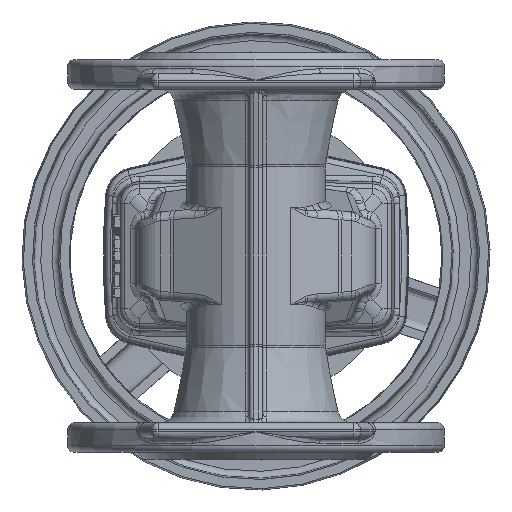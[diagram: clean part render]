
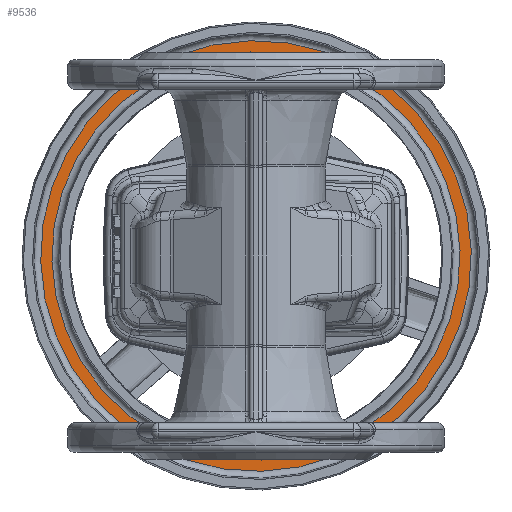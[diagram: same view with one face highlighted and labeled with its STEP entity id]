
A CAD part, front view. The second image highlights one B-rep face of the part: STEP entity #9536.
In plain terms, the highlighted planar face has unit normal (0, -1, 0).
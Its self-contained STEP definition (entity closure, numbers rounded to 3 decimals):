
#1201 = CARTESIAN_POINT ( 'NONE',  ( 0., 317., 0. ) ) ;
#1202 = DIRECTION ( 'NONE',  ( 0., 1., 0. ) ) ;
#1203 = DIRECTION ( 'NONE',  ( 0.199, 0., -0.98 ) ) ;
#3427 = CIRCLE ( 'NONE', #6413, 89.355 ) ;
#3548 = CIRCLE ( 'NONE', #6389, 94.299 ) ;
#6373 = AXIS2_PLACEMENT_3D ( 'NONE', #9276, #9268, #9267 ) ;
#6389 = AXIS2_PLACEMENT_3D ( 'NONE', #15689, #15690, #15691 ) ;
#6413 = AXIS2_PLACEMENT_3D ( 'NONE', #1201, #1202, #1203 ) ;
#9267 = DIRECTION ( 'NONE',  ( 0.199, 0., -0.98 ) ) ;
#9268 = DIRECTION ( 'NONE',  ( 0., 1., 0. ) ) ;
#9276 = CARTESIAN_POINT ( 'NONE',  ( -17.821, 317., 87.56 ) ) ;
#9277 = PLANE ( 'NONE',  #6373 ) ;
#9536 = ADVANCED_FACE ( 'NONE', ( #31243, #31253 ), #9277, .F. ) ;
#10168 = EDGE_CURVE ( 'NONE', #27111, #27111, #3427, .T. ) ;
#10320 = EDGE_CURVE ( 'NONE', #27119, #27119, #3548, .T. ) ;
#15689 = CARTESIAN_POINT ( 'NONE',  ( 0., 317., 0. ) ) ;
#15690 = DIRECTION ( 'NONE',  ( 0., 1., 0. ) ) ;
#15691 = DIRECTION ( 'NONE',  ( 0.199, 0., -0.98 ) ) ;
#22505 = EDGE_LOOP ( 'NONE', ( #32980 ) ) ;
#22519 = EDGE_LOOP ( 'NONE', ( #32981 ) ) ;
#27111 = VERTEX_POINT ( 'NONE', #30521 ) ;
#27119 = VERTEX_POINT ( 'NONE', #30529 ) ;
#30521 = CARTESIAN_POINT ( 'NONE',  ( 17.821, 317., -87.56 ) ) ;
#30529 = CARTESIAN_POINT ( 'NONE',  ( 18.807, 317., -92.404 ) ) ;
#31243 = FACE_OUTER_BOUND ( 'NONE', #22519, .T. ) ;
#31253 = FACE_BOUND ( 'NONE', #22505, .T. ) ;
#32980 = ORIENTED_EDGE ( 'NONE', *, *, #10168, .T. ) ;
#32981 = ORIENTED_EDGE ( 'NONE', *, *, #10320, .F. ) ;
